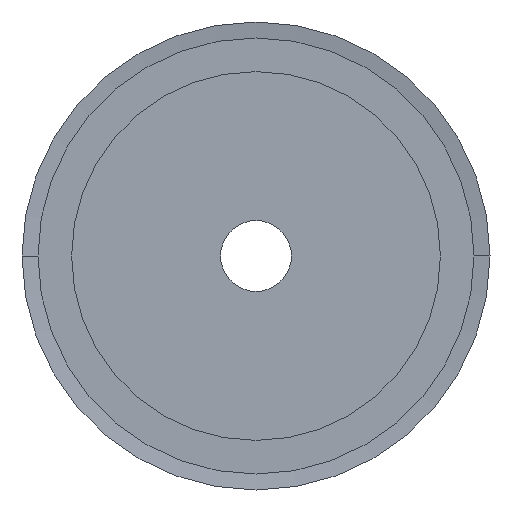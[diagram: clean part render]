
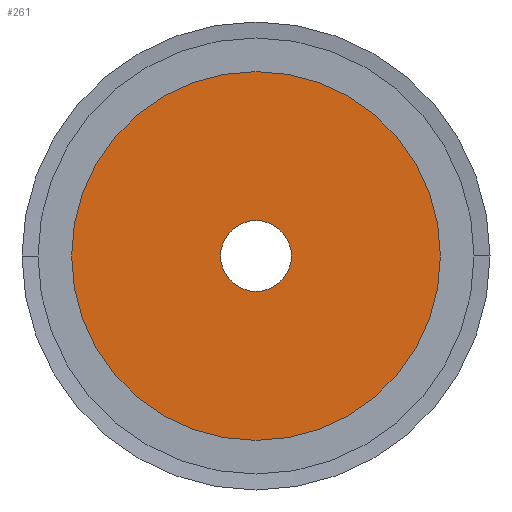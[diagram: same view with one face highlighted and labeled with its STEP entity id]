
A CAD part, left-side view. The second image highlights one B-rep face of the part: STEP entity #261.
In plain terms, the highlighted planar face has unit normal (-1, 0, 0).
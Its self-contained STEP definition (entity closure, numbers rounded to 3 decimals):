
#261 = ADVANCED_FACE( '', ( #641, #642 ), #643, .T. );
#641 = FACE_BOUND( '', #1022, .T. );
#642 = FACE_OUTER_BOUND( '', #1023, .T. );
#643 = PLANE( '', #1024 );
#1022 = EDGE_LOOP( '', ( #2643, #2644 ) );
#1023 = EDGE_LOOP( '', ( #2645, #2646 ) );
#1024 = AXIS2_PLACEMENT_3D( '', #2647, #2648, #2649 );
#2643 = ORIENTED_EDGE( '', *, *, #2689, .T. );
#2644 = ORIENTED_EDGE( '', *, *, #2685, .T. );
#2645 = ORIENTED_EDGE( '', *, *, #2653, .T. );
#2646 = ORIENTED_EDGE( '', *, *, #3181, .T. );
#2647 = CARTESIAN_POINT( '', ( 0., 13., 0. ) );
#2648 = DIRECTION( '', ( -1., 0., 0. ) );
#2649 = DIRECTION( '', ( 0., 1., 0. ) );
#2653 = EDGE_CURVE( '', #3183, #3187, #3189, .T. );
#2685 = EDGE_CURVE( '', #3247, #3244, #3248, .T. );
#2689 = EDGE_CURVE( '', #3244, #3247, #3253, .T. );
#3181 = EDGE_CURVE( '', #3187, #3183, #4065, .T. );
#3183 = VERTEX_POINT( '', #4067 );
#3187 = VERTEX_POINT( '', #4072 );
#3189 = CIRCLE( '', #4075, 26. );
#3244 = VERTEX_POINT( '', #4146 );
#3247 = VERTEX_POINT( '', #4150 );
#3248 = CIRCLE( '', #4151, 5. );
#3253 = CIRCLE( '', #4157, 5. );
#4065 = CIRCLE( '', #5249, 26. );
#4067 = CARTESIAN_POINT( '', ( 0., 26., 0. ) );
#4072 = CARTESIAN_POINT( '', ( 0., -26., 0. ) );
#4075 = AXIS2_PLACEMENT_3D( '', #5255, #5256, #5257 );
#4146 = CARTESIAN_POINT( '', ( 0., 5., 0. ) );
#4150 = CARTESIAN_POINT( '', ( 0., -5., 0. ) );
#4151 = AXIS2_PLACEMENT_3D( '', #5317, #5318, #5319 );
#4157 = AXIS2_PLACEMENT_3D( '', #5327, #5328, #5329 );
#5249 = AXIS2_PLACEMENT_3D( '', #6243, #6244, #6245 );
#5255 = CARTESIAN_POINT( '', ( 0., 0., 0. ) );
#5256 = DIRECTION( '', ( -1., 0., 0. ) );
#5257 = DIRECTION( '', ( 0., 1., 0. ) );
#5317 = CARTESIAN_POINT( '', ( 0., 0., 0. ) );
#5318 = DIRECTION( '', ( 1., 0., 0. ) );
#5319 = DIRECTION( '', ( 0., 1., 0. ) );
#5327 = CARTESIAN_POINT( '', ( 0., 0., 0. ) );
#5328 = DIRECTION( '', ( 1., 0., 0. ) );
#5329 = DIRECTION( '', ( 0., 1., 0. ) );
#6243 = CARTESIAN_POINT( '', ( 0., 0., 0. ) );
#6244 = DIRECTION( '', ( -1., 0., 0. ) );
#6245 = DIRECTION( '', ( 0., 1., 0. ) );
